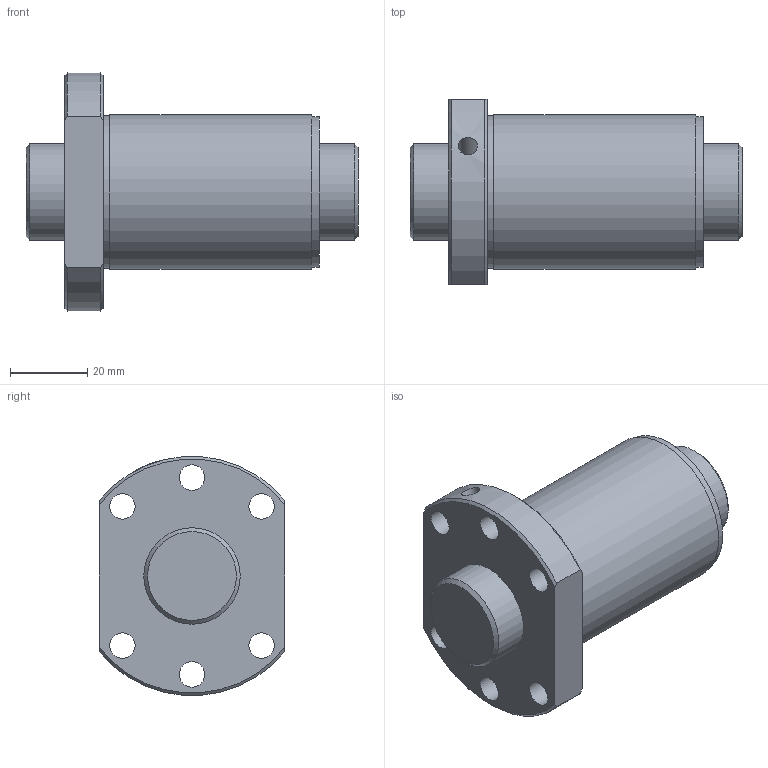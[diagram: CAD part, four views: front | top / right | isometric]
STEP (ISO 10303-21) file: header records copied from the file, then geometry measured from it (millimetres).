
FILE_DESCRIPTION(/* description */ ('STEP AP203'),/* implementation_level */ '2;1');
FILE_NAME(/* name */ 'SDA2520V-3G0+86LC0(0G000)',/* time_stamp */ '2024-05-28T11:30:49+02:00',/* author */ ('License CC BY-ND 4.0'),/* organization */ ('CADENAS'),/* preprocessor_version */ 'ST-DEVELOPER v19.3',/* originating_system */ 'PARTsolutions',/* authorisation */ ' ');
FILE_SCHEMA (('CONFIG_CONTROL_DESIGN'));
Length unit declared in the file: millimetre
Products named in the file (3): SDA2520V-3G0+86LC0(0G000); 000SDA2520V-30Shaft; SDA-V serieSDA2520V-3nut
Assembly tree (2 placements, depth 2):
  SDA2520V-3G0+86LC0(0G000)
    000SDA2520V-30Shaft
    SDA-V serieSDA2520V-3nut
Bounding box: 86 x 48 x 61.8 mm (x, y, z)
Volume: 103966 mm3; surface area: 27073.3 mm2
Topology: 2 solids, 2 shells, 31 faces, 74 edges, 50 vertices
Faces by surface type: cylinder 15, plane 9, cone 7
Full cylindrical faces by diameter (mm): 3.9 x1, 4.917 x1, 6.6 x6, 25 x2, 39 x1, 39.6 x1, 40 x1
Entity records: 915 total; most frequent: CARTESIAN_POINT 174, DIRECTION 144, ORIENTED_EDGE 104, AXIS2_PLACEMENT_3D 68, EDGE_LOOP 66, FACE_BOUND 66, EDGE_CURVE 52, VERTEX_POINT 44
